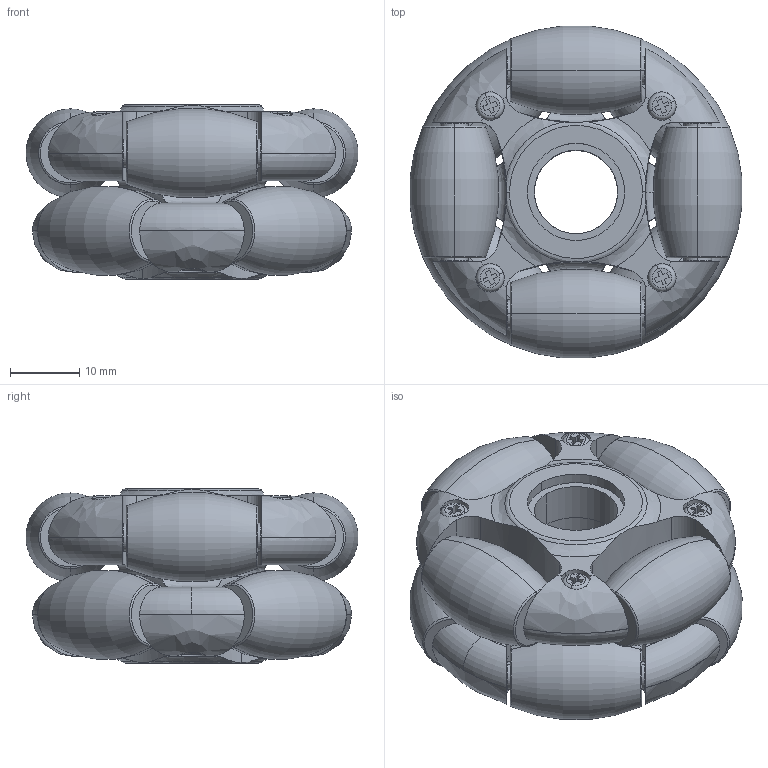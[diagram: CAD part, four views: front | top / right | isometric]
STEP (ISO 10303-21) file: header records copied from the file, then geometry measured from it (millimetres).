
FILE_DESCRIPTION (( 'STEP AP214' ), '1' );
FILE_NAME ('MO103.STEP', '2017-07-10T08:49:54', ( 'nss000' ), ( 'Microsoft' ), 'SwSTEP 2.0', 'SolidWorks 2016', '' );
FILE_SCHEMA (( 'AUTOMOTIVE_DESIGN' ));
Length unit declared in the file: millimetre
Products named in the file (6): MO103; 笢潔蟀諉璃; 苤幗謫; 俋晚え; 嫖粣; 圉埴芛坋趼蹟佪(M2.5X8)
Assembly tree (27 placements, depth 2):
  MO103
    圉埴芛坋趼蹟佪(M2.5X8)  x8
    嫖粣  x8
    俋晚え  x2
    苤幗謫  x8
    笢潔蟀諉璃
Bounding box: 47.85 x 47.85 x 25.1 mm (x, y, z)
Volume: 26915.3 mm3; surface area: 23203.9 mm2
Topology: 27 solids, 27 shells, 997 faces, 2457 edges, 1606 vertices
Faces by surface type: cylinder 461, plane 336, cone 98, torus 82, bspline 20
Entity records: 15988 total; most frequent: CARTESIAN_POINT 3912, DIRECTION 2666, ORIENTED_EDGE 2406, EDGE_CURVE 1203, AXIS2_PLACEMENT_3D 1092, VERTEX_POINT 795, CIRCLE 621, EDGE_LOOP 514
